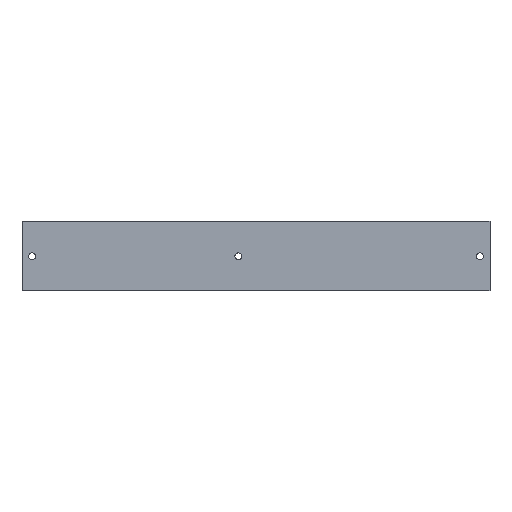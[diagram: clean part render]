
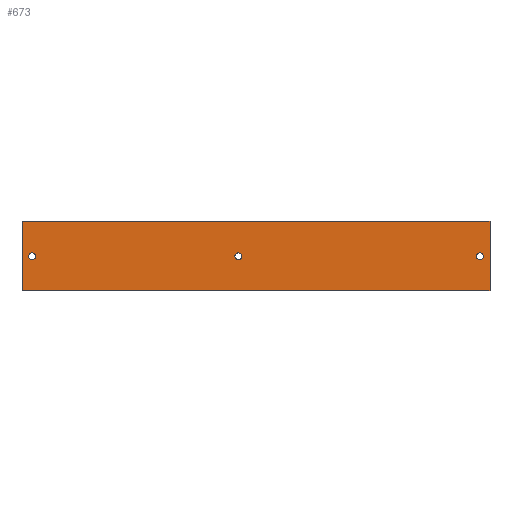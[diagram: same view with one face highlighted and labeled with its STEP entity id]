
A CAD part, front view. The second image highlights one B-rep face of the part: STEP entity #673.
In plain terms, the highlighted planar face has unit normal (0, -1, 0).
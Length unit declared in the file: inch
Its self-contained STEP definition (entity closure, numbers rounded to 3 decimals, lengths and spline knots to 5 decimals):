
#136 = AXIS2_PLACEMENT_3D ( 'NONE', #2422, #14495, #4182 ) ;
#231 = VECTOR ( 'NONE', #7373, 39.37008 ) ;
#406 = VERTEX_POINT ( 'NONE', #18076 ) ;
#656 = CIRCLE ( 'NONE', #5039, 0.172 ) ;
#673 = ADVANCED_FACE ( 'NONE', ( #7094, #10034, #5436, #14085 ), #14399, .T. ) ;
#1176 = EDGE_LOOP ( 'NONE', ( #18920, #14732 ) ) ;
#1737 = ORIENTED_EDGE ( 'NONE', *, *, #7798, .T. ) ;
#1744 = EDGE_LOOP ( 'NONE', ( #11223, #7225 ) ) ;
#2422 = CARTESIAN_POINT ( 'NONE',  ( -0.5, 0., -1.75 ) ) ;
#2560 = VECTOR ( 'NONE', #7163, 39.37008 ) ;
#3066 = CARTESIAN_POINT ( 'NONE',  ( -23.25, 0., 0. ) ) ;
#3128 = VECTOR ( 'NONE', #7482, 39.37008 ) ;
#3158 = VERTEX_POINT ( 'NONE', #11208 ) ;
#3802 = VERTEX_POINT ( 'NONE', #5760 ) ;
#3908 = CARTESIAN_POINT ( 'NONE',  ( -0.5, 0., -1.578 ) ) ;
#4182 = DIRECTION ( 'NONE',  ( 0., 0., 1. ) ) ;
#4799 = CARTESIAN_POINT ( 'NONE',  ( -12.5, 0., -1.922 ) ) ;
#4893 = LINE ( 'NONE', #21298, #231 ) ;
#5039 = AXIS2_PLACEMENT_3D ( 'NONE', #19449, #8980, #21266 ) ;
#5275 = ORIENTED_EDGE ( 'NONE', *, *, #12235, .F. ) ;
#5436 = FACE_BOUND ( 'NONE', #10931, .T. ) ;
#5612 = CARTESIAN_POINT ( 'NONE',  ( -23.25, 0., -3.466 ) ) ;
#5691 = DIRECTION ( 'NONE',  ( 1., 0., 0. ) ) ;
#5760 = CARTESIAN_POINT ( 'NONE',  ( 0., 0., -3.466 ) ) ;
#5991 = CARTESIAN_POINT ( 'NONE',  ( -23.25, 0., 0. ) ) ;
#6372 = LINE ( 'NONE', #5612, #15540 ) ;
#6645 = LINE ( 'NONE', #5991, #3128 ) ;
#7094 = FACE_BOUND ( 'NONE', #1176, .T. ) ;
#7163 = DIRECTION ( 'NONE',  ( 0., 0., -1. ) ) ;
#7177 = CARTESIAN_POINT ( 'NONE',  ( 0., 0., 0. ) ) ;
#7225 = ORIENTED_EDGE ( 'NONE', *, *, #22167, .T. ) ;
#7373 = DIRECTION ( 'NONE',  ( 1., 0., 0. ) ) ;
#7482 = DIRECTION ( 'NONE',  ( 0., 0., -1. ) ) ;
#7486 = EDGE_CURVE ( 'NONE', #12654, #3802, #6372, .T. ) ;
#7613 = EDGE_CURVE ( 'NONE', #8962, #9029, #9335, .T. ) ;
#7705 = EDGE_CURVE ( 'NONE', #15266, #3158, #14451, .T. ) ;
#7733 = EDGE_CURVE ( 'NONE', #18943, #406, #16913, .T. ) ;
#7768 = EDGE_CURVE ( 'NONE', #20545, #3802, #21167, .T. ) ;
#7798 = EDGE_CURVE ( 'NONE', #16559, #12654, #6645, .T. ) ;
#8163 = CIRCLE ( 'NONE', #136, 0.172 ) ;
#8210 = DIRECTION ( 'NONE',  ( 0., 0., 1. ) ) ;
#8737 = DIRECTION ( 'NONE',  ( 0., 1., 0. ) ) ;
#8793 = ORIENTED_EDGE ( 'NONE', *, *, #21416, .T. ) ;
#8807 = CARTESIAN_POINT ( 'NONE',  ( -0.5, 0., -1.75 ) ) ;
#8962 = VERTEX_POINT ( 'NONE', #10451 ) ;
#8980 = DIRECTION ( 'NONE',  ( 0., 1., 0. ) ) ;
#9029 = VERTEX_POINT ( 'NONE', #4799 ) ;
#9318 = ORIENTED_EDGE ( 'NONE', *, *, #7768, .F. ) ;
#9335 = CIRCLE ( 'NONE', #22160, 0.172 ) ;
#9406 = DIRECTION ( 'NONE',  ( 0., 1., 0. ) ) ;
#9879 = EDGE_LOOP ( 'NONE', ( #9318, #5275, #1737, #20326 ) ) ;
#10034 = FACE_BOUND ( 'NONE', #1744, .T. ) ;
#10316 = DIRECTION ( 'NONE',  ( 0., 0., 1. ) ) ;
#10394 = DIRECTION ( 'NONE',  ( 0., 1., 0. ) ) ;
#10451 = CARTESIAN_POINT ( 'NONE',  ( -12.5, 0., -1.578 ) ) ;
#10460 = CARTESIAN_POINT ( 'NONE',  ( -22.75, 0., -1.75 ) ) ;
#10931 = EDGE_LOOP ( 'NONE', ( #12274, #8793 ) ) ;
#11208 = CARTESIAN_POINT ( 'NONE',  ( -22.75, 0., -1.922 ) ) ;
#11223 = ORIENTED_EDGE ( 'NONE', *, *, #7705, .T. ) ;
#11525 = CARTESIAN_POINT ( 'NONE',  ( -23.25, 0., -3.466 ) ) ;
#12235 = EDGE_CURVE ( 'NONE', #16559, #20545, #4893, .T. ) ;
#12274 = ORIENTED_EDGE ( 'NONE', *, *, #7733, .T. ) ;
#12654 = VERTEX_POINT ( 'NONE', #11525 ) ;
#13454 = AXIS2_PLACEMENT_3D ( 'NONE', #14483, #14297, #14250 ) ;
#14017 = CIRCLE ( 'NONE', #20543, 0.172 ) ;
#14085 = FACE_OUTER_BOUND ( 'NONE', #9879, .T. ) ;
#14250 = DIRECTION ( 'NONE',  ( 0., 0., -1. ) ) ;
#14297 = DIRECTION ( 'NONE',  ( 0., -1., 0. ) ) ;
#14399 = PLANE ( 'NONE',  #13454 ) ;
#14451 = CIRCLE ( 'NONE', #22047, 0.172 ) ;
#14483 = CARTESIAN_POINT ( 'NONE',  ( -23.25, 0., 0. ) ) ;
#14495 = DIRECTION ( 'NONE',  ( 0., 1., 0. ) ) ;
#14732 = ORIENTED_EDGE ( 'NONE', *, *, #18906, .T. ) ;
#15184 = CARTESIAN_POINT ( 'NONE',  ( 0., 0., 0. ) ) ;
#15266 = VERTEX_POINT ( 'NONE', #19252 ) ;
#15540 = VECTOR ( 'NONE', #5691, 39.37008 ) ;
#16042 = DIRECTION ( 'NONE',  ( 0., 0., 1. ) ) ;
#16166 = DIRECTION ( 'NONE',  ( 0., 1., 0. ) ) ;
#16184 = CARTESIAN_POINT ( 'NONE',  ( -12.5, 0., -1.75 ) ) ;
#16559 = VERTEX_POINT ( 'NONE', #3066 ) ;
#16913 = CIRCLE ( 'NONE', #21982, 0.172 ) ;
#18076 = CARTESIAN_POINT ( 'NONE',  ( -0.5, 0., -1.922 ) ) ;
#18906 = EDGE_CURVE ( 'NONE', #9029, #8962, #656, .T. ) ;
#18920 = ORIENTED_EDGE ( 'NONE', *, *, #7613, .T. ) ;
#18943 = VERTEX_POINT ( 'NONE', #3908 ) ;
#19252 = CARTESIAN_POINT ( 'NONE',  ( -22.75, 0., -1.578 ) ) ;
#19449 = CARTESIAN_POINT ( 'NONE',  ( -12.5, 0., -1.75 ) ) ;
#19931 = CARTESIAN_POINT ( 'NONE',  ( -22.75, 0., -1.75 ) ) ;
#20326 = ORIENTED_EDGE ( 'NONE', *, *, #7486, .T. ) ;
#20543 = AXIS2_PLACEMENT_3D ( 'NONE', #19931, #9406, #21734 ) ;
#20545 = VERTEX_POINT ( 'NONE', #15184 ) ;
#21167 = LINE ( 'NONE', #7177, #2560 ) ;
#21266 = DIRECTION ( 'NONE',  ( 0., 0., 1. ) ) ;
#21298 = CARTESIAN_POINT ( 'NONE',  ( -23.25, 0., 0. ) ) ;
#21416 = EDGE_CURVE ( 'NONE', #406, #18943, #8163, .T. ) ;
#21734 = DIRECTION ( 'NONE',  ( 0., 0., 1. ) ) ;
#21982 = AXIS2_PLACEMENT_3D ( 'NONE', #8807, #8737, #8210 ) ;
#22047 = AXIS2_PLACEMENT_3D ( 'NONE', #10460, #10394, #10316 ) ;
#22160 = AXIS2_PLACEMENT_3D ( 'NONE', #16184, #16166, #16042 ) ;
#22167 = EDGE_CURVE ( 'NONE', #3158, #15266, #14017, .T. ) ;
